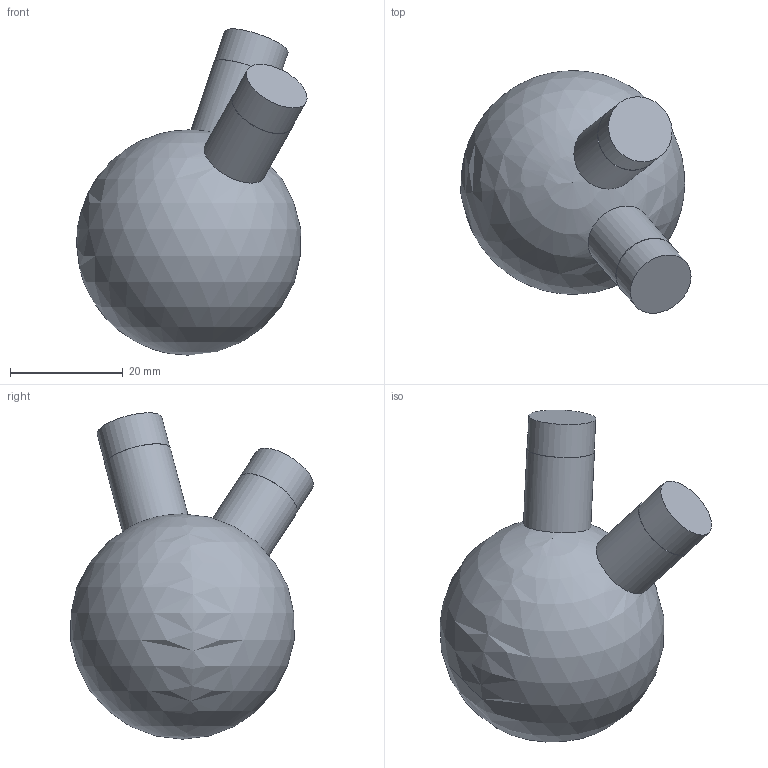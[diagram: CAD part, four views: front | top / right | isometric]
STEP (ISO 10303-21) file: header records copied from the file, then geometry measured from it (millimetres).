
FILE_DESCRIPTION(('Open CASCADE Model'),'2;1');
FILE_NAME('Open CASCADE Shape Model','2026-10-21T12:47:57',('Author'),( 'Open CASCADE'),'Open CASCADE STEP processor 7.9','Open CASCADE 7.9' ,'Unknown');
FILE_SCHEMA(('AUTOMOTIVE_DESIGN { 1 0 10303 214 1 1 1 1 }'));
Length unit declared in the file: millimetre
Products named in the file (1): Open CASCADE STEP translator 7.9 148
Bounding box: 40.87 x 43.11 x 57.95 mm (x, y, z)
Volume: 37592.1 mm3; surface area: 6420.6 mm2
Topology: 1 solids, 1 shells, 9 faces, 17 edges, 12 vertices
Faces by surface type: cylinder 4, plane 4, sphere 1
Full cylindrical faces by diameter (mm): 11.9 x2, 12 x2
Entity records: 630 total; most frequent: CARTESIAN_POINT 256, DIRECTION 76, ORIENTED_EDGE 32, PCURVE 32, DEFINITIONAL_REPRESENTATION 32, LINE 26, VECTOR 26, AXIS2_PLACEMENT_3D 22
